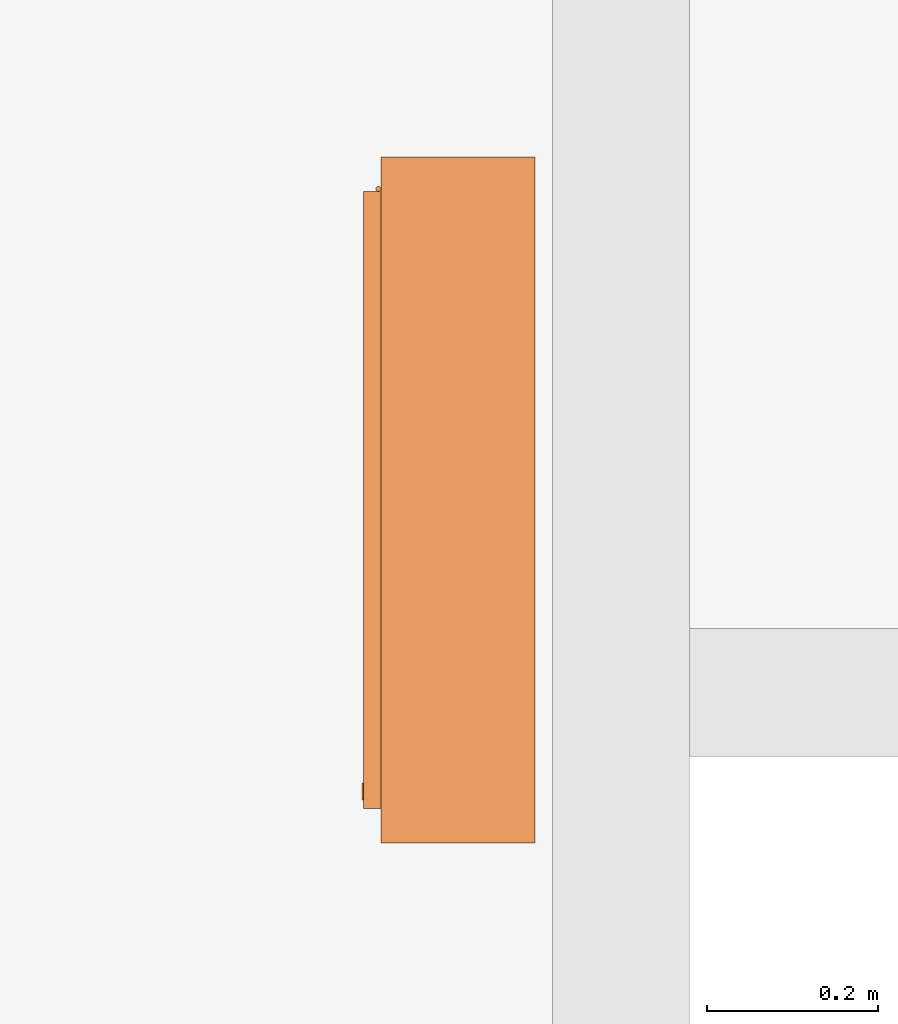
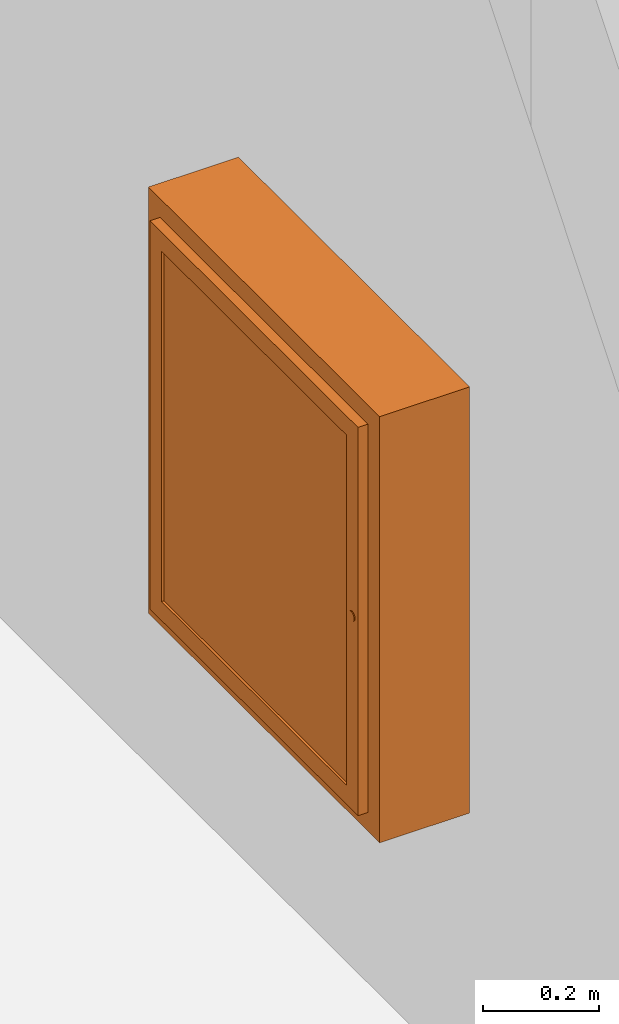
# One storey, part 37 of 67: 1 proxy.
"""IFC2X3 building model written with IfcOpenShell, lengths in millimetres."""

from ifc_helpers import new_model, entity, si_unit, converted_unit, derived_unit, money_unit, direction, frame, origin_with_axes, place, context, subcontext, project, spatial, faceted_brep, source, transform, mapped, type_object, element, save


model = new_model("IFC2X3")

# Units and contexts
model_context = context("Model", 3, precision=0.01, world=origin_with_axes(), true_north=direction((0.34421633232, 0.938890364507)))
body_context = subcontext(model_context, "Body", "Model", "MODEL_VIEW")
ifc_project = project(units=[si_unit("LENGTHUNIT", "METRE", prefix="MILLI"), si_unit("AREAUNIT", "SQUARE_METRE"), si_unit("VOLUMEUNIT", "CUBIC_METRE"), converted_unit("PLANEANGLEUNIT", "DEGREE", entity("IfcPlaneAngleMeasure", 0.0174532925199), si_unit("PLANEANGLEUNIT", "RADIAN"), dimensions=[0, 0, 0, 0, 0, 0, 0]), si_unit("SOLIDANGLEUNIT", "STERADIAN"), money_unit("USD"), converted_unit("TIMEUNIT", "Year", entity("IfcTimeMeasure", 31556926.0), si_unit("TIMEUNIT", "SECOND"), dimensions=[0, 0, 1, 0, 0, 0, 0]), si_unit("MASSUNIT", "GRAM", prefix="KILO"), si_unit("THERMODYNAMICTEMPERATUREUNIT", "DEGREE_CELSIUS"), si_unit("LUMINOUSINTENSITYUNIT", "LUMEN"), si_unit("ENERGYUNIT", "JOULE", prefix="MEGA"), derived_unit("THERMALCONDUCTANCEUNIT", [(si_unit("POWERUNIT", "WATT"), 1), (si_unit("LENGTHUNIT", "METRE"), -1), (si_unit("THERMODYNAMICTEMPERATUREUNIT", "KELVIN"), -1)]), derived_unit("SPECIFICHEATCAPACITYUNIT", [(si_unit("ENERGYUNIT", "JOULE"), 1), (si_unit("MASSUNIT", "GRAM", prefix="KILO"), -1), (si_unit("THERMODYNAMICTEMPERATUREUNIT", "KELVIN"), -1)]), derived_unit("MASSDENSITYUNIT", [(si_unit("MASSUNIT", "GRAM", prefix="KILO"), 1), (si_unit("VOLUMEUNIT", "CUBIC_METRE"), -1)])], contexts=[model_context])

# Site, building, storey
site_placement = place(None, origin_with_axes())
site = spatial("IfcSite", under=ifc_project, at=site_placement, Name="USTRONIE MORSKIE", CompositionType="ELEMENT")
building_placement = place(site_placement, origin_with_axes())
building = spatial("IfcBuilding", under=site, at=building_placement, Name="Budynek", CompositionType="ELEMENT")
storey_placement = place(building_placement, frame((0.0, 0.0, 4000.0), z_axis=(0.0, 0.0, 1.0), x_axis=(1.0, 0.0, 0.0)))
storey = spatial("IfcBuildingStorey", under=building, at=storey_placement, Name="PIĘTRO 1", CompositionType="ELEMENT", Elevation=4000.0)

# Proxy
building_element_proxy_type = type_object("IfcBuildingElementProxyType", Name="Skrzynka P-Poż 23", PredefinedType="NOTDEFINED")
shared_shape = source(origin_with_axes(), body_context, "Body", "Brep", [
    faceted_brep([(0.0, 40.0, 0.0), (800.0, 40.0, 0.0), (800.0, 20.0, 0.0), (0.0, 20.0, 0.0), (0.0, 40.0, 900.0), (800.0, 40.0, 900.0), (60.0, 40.0, 60.0), (740.0, 40.0, 60.0), (740.0, 40.0, 840.0), (60.0, 40.0, 840.0), (800.0, 20.0, 900.0), (0.0, 20.0, 900.0), (60.0, 20.0, 60.0), (60.0, 20.0, 840.0), (740.0, 20.0, 840.0), (740.0, 20.0, 60.0)], [[[0, 1, 2, 3]], [[0, 4, 5, 1], [6, 7, 8, 9]], [[1, 5, 10, 2]], [[3, 2, 10, 11], [12, 13, 14, 15]], [[4, 0, 3, 11]], [[5, 4, 11, 10]], [[7, 6, 12, 15]], [[8, 7, 15, 14]], [[9, 8, 14, 13]], [[6, 9, 13, 12]]]),
    faceted_brep([(40.0, 20.0, 40.0), (760.0, 20.0, 40.0), (760.0, 0.0, 40.0), (40.0, 0.0, 40.0), (40.0, 20.0, 860.0), (760.0, 20.0, 860.0), (80.0, 20.0, 80.0), (720.0, 20.0, 80.0), (720.0, 20.0, 820.0), (80.0, 20.0, 820.0), (760.0, 0.0, 860.0), (40.0, 0.0, 860.0), (80.0, 0.0, 80.0), (80.0, 0.0, 820.0), (720.0, 0.0, 820.0), (720.0, 0.0, 80.0)], [[[0, 1, 2, 3]], [[0, 4, 5, 1], [6, 7, 8, 9]], [[1, 5, 10, 2]], [[3, 2, 10, 11], [12, 13, 14, 15]], [[4, 0, 3, 11]], [[5, 4, 11, 10]], [[7, 6, 12, 15]], [[8, 7, 15, 14]], [[9, 8, 14, 13]], [[6, 9, 13, 12]]]),
    faceted_brep([(0.0, 180.0, 0.0), (800.0, 180.0, 0.0), (800.0, 40.0, 0.0), (0.0, 40.0, 0.0), (0.0, 180.0, 900.0), (800.0, 180.0, 900.0), (20.0, 180.0, 20.0), (780.0, 180.0, 20.0), (780.0, 180.0, 880.0), (20.0, 180.0, 880.0), (800.0, 40.0, 900.0), (0.0, 40.0, 900.0), (20.0, 40.0, 20.0), (20.0, 40.0, 880.0), (780.0, 40.0, 880.0), (780.0, 40.0, 20.0)], [[[0, 1, 2, 3]], [[0, 4, 5, 1], [6, 7, 8, 9]], [[1, 5, 10, 2]], [[3, 2, 10, 11], [12, 13, 14, 15]], [[4, 0, 3, 11]], [[5, 4, 11, 10]], [[7, 6, 12, 15]], [[8, 7, 15, 14]], [[9, 8, 14, 13]], [[6, 9, 13, 12]]]),
    faceted_brep([(0.0, 200.0, 0.0), (800.0, 200.0, 0.0), (800.0, 180.0, 0.0), (0.0, 180.0, 0.0), (0.0, 200.0, 900.0), (800.0, 200.0, 900.0), (800.0, 180.0, 900.0), (0.0, 180.0, 900.0)], [[[0, 1, 2, 3]], [[0, 4, 5, 1]], [[1, 5, 6, 2]], [[3, 2, 6, 7]], [[4, 0, 3, 7]], [[5, 4, 7, 6]]]),
    faceted_brep([(80.0, 15.0, 80.0), (720.0, 15.0, 80.0), (720.0, 5.0, 80.0), (80.0, 5.0, 80.0), (80.0, 15.0, 820.0), (720.0, 15.0, 820.0), (720.0, 5.0, 820.0), (80.0, 5.0, 820.0)], [[[0, 1, 2, 3]], [[0, 4, 5, 1]], [[1, 5, 6, 2]], [[3, 2, 6, 7]], [[4, 0, 3, 7]], [[5, 4, 7, 6]]]),
    faceted_brep([(749.659258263, 0.0, 447.411809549), (748.660254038, 0.0, 445.0), (747.071067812, 0.0, 442.928932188), (745.0, 0.0, 441.339745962), (742.588190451, 0.0, 440.340741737), (740.0, 0.0, 440.0), (737.411809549, 0.0, 440.340741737), (735.0, 0.0, 441.339745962), (732.928932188, 0.0, 442.928932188), (731.339745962, 0.0, 445.0), (730.340741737, 0.0, 447.411809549), (730.0, 0.0, 450.0), (730.340741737, 0.0, 452.588190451), (731.339745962, 0.0, 455.0), (732.928932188, 0.0, 457.071067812), (735.0, 0.0, 458.660254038), (737.411809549, 0.0, 459.659258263), (740.0, 0.0, 460.0), (742.588190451, 0.0, 459.659258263), (745.0, 0.0, 458.660254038), (747.071067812, 0.0, 457.071067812), (748.660254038, 0.0, 455.0), (749.659258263, 0.0, 452.588190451), (750.0, 0.0, 450.0), (749.659258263, -2.0, 447.411809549), (748.660254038, -2.0, 445.0), (747.071067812, -2.0, 442.928932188), (745.0, -2.0, 441.339745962), (742.588190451, -2.0, 440.340741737), (740.0, -2.0, 440.0), (737.411809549, -2.0, 440.340741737), (735.0, -2.0, 441.339745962), (732.928932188, -2.0, 442.928932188), (731.339745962, -2.0, 445.0), (730.340741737, -2.0, 447.411809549), (730.0, -2.0, 450.0), (730.340741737, -2.0, 452.588190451), (731.339745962, -2.0, 455.0), (732.928932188, -2.0, 457.071067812), (735.0, -2.0, 458.660254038), (737.411809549, -2.0, 459.659258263), (740.0, -2.0, 460.0), (742.588190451, -2.0, 459.659258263), (745.0, -2.0, 458.660254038), (747.071067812, -2.0, 457.071067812), (748.660254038, -2.0, 455.0), (749.659258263, -2.0, 452.588190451), (750.0, -2.0, 450.0)], [[[0, 1, 2, 3, 4, 5, 6, 7, 8, 9, 10, 11, 12, 13, 14, 15, 16, 17, 18, 19, 20, 21, 22, 23]], [[1, 0, 24, 25]], [[2, 1, 25, 26]], [[3, 2, 26, 27]], [[4, 3, 27, 28]], [[5, 4, 28, 29]], [[6, 5, 29, 30]], [[7, 6, 30, 31]], [[8, 7, 31, 32]], [[9, 8, 32, 33]], [[10, 9, 33, 34]], [[11, 10, 34, 35]], [[12, 11, 35, 36]], [[13, 12, 36, 37]], [[14, 13, 37, 38]], [[15, 14, 38, 39]], [[16, 15, 39, 40]], [[17, 16, 40, 41]], [[18, 17, 41, 42]], [[19, 18, 42, 43]], [[20, 19, 43, 44]], [[21, 20, 44, 45]], [[22, 21, 45, 46]], [[23, 22, 46, 47]], [[0, 23, 47, 24]], [[24, 47, 46, 45, 44, 43, 42, 41, 40, 39, 38, 37, 36, 35, 34, 33, 32, 31, 30, 29, 28, 27, 26, 25]]]),
    faceted_brep([(39.8977774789, 16.2235428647, 80.0), (39.5980762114, 15.5, 80.0), (39.1213203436, 14.8786796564, 80.0), (38.5, 14.4019237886, 80.0), (37.7764571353, 14.1022225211, 80.0), (37.0, 14.0, 80.0), (36.2235428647, 14.1022225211, 80.0), (35.5, 14.4019237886, 80.0), (34.8786796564, 14.8786796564, 80.0), (34.4019237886, 15.5, 80.0), (34.1022225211, 16.2235428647, 80.0), (34.0, 17.0, 80.0), (34.1022225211, 17.7764571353, 80.0), (34.4019237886, 18.5, 80.0), (34.8786796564, 19.1213203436, 80.0), (35.5, 19.5980762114, 80.0), (36.2235428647, 19.8977774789, 80.0), (37.0, 20.0, 80.0), (37.7764571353, 19.8977774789, 80.0), (38.5, 19.5980762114, 80.0), (39.1213203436, 19.1213203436, 80.0), (39.5980762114, 18.5, 80.0), (39.8977774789, 17.7764571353, 80.0), (40.0, 17.0, 80.0), (39.8977774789, 16.2235428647, 120.0), (39.5980762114, 15.5, 120.0), (39.1213203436, 14.8786796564, 120.0), (38.5, 14.4019237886, 120.0), (37.7764571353, 14.1022225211, 120.0), (37.0, 14.0, 120.0), (36.2235428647, 14.1022225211, 120.0), (35.5, 14.4019237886, 120.0), (34.8786796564, 14.8786796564, 120.0), (34.4019237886, 15.5, 120.0), (34.1022225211, 16.2235428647, 120.0), (34.0, 17.0, 120.0), (34.1022225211, 17.7764571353, 120.0), (34.4019237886, 18.5, 120.0), (34.8786796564, 19.1213203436, 120.0), (35.5, 19.5980762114, 120.0), (36.2235428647, 19.8977774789, 120.0), (37.0, 20.0, 120.0), (37.7764571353, 19.8977774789, 120.0), (38.5, 19.5980762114, 120.0), (39.1213203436, 19.1213203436, 120.0), (39.5980762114, 18.5, 120.0), (39.8977774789, 17.7764571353, 120.0), (40.0, 17.0, 120.0)], [[[0, 1, 2, 3, 4, 5, 6, 7, 8, 9, 10, 11, 12, 13, 14, 15, 16, 17, 18, 19, 20, 21, 22, 23]], [[1, 0, 24, 25]], [[2, 1, 25, 26]], [[3, 2, 26, 27]], [[4, 3, 27, 28]], [[5, 4, 28, 29]], [[6, 5, 29, 30]], [[7, 6, 30, 31]], [[8, 7, 31, 32]], [[9, 8, 32, 33]], [[10, 9, 33, 34]], [[11, 10, 34, 35]], [[12, 11, 35, 36]], [[13, 12, 36, 37]], [[14, 13, 37, 38]], [[15, 14, 38, 39]], [[16, 15, 39, 40]], [[17, 16, 40, 41]], [[18, 17, 41, 42]], [[19, 18, 42, 43]], [[20, 19, 43, 44]], [[21, 20, 44, 45]], [[22, 21, 45, 46]], [[23, 22, 46, 47]], [[0, 23, 47, 24]], [[24, 47, 46, 45, 44, 43, 42, 41, 40, 39, 38, 37, 36, 35, 34, 33, 32, 31, 30, 29, 28, 27, 26, 25]]]),
    faceted_brep([(39.8977774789, 16.2235428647, 780.0), (39.5980762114, 15.5, 780.0), (39.1213203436, 14.8786796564, 780.0), (38.5, 14.4019237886, 780.0), (37.7764571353, 14.1022225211, 780.0), (37.0, 14.0, 780.0), (36.2235428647, 14.1022225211, 780.0), (35.5, 14.4019237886, 780.0), (34.8786796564, 14.8786796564, 780.0), (34.4019237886, 15.5, 780.0), (34.1022225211, 16.2235428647, 780.0), (34.0, 17.0, 780.0), (34.1022225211, 17.7764571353, 780.0), (34.4019237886, 18.5, 780.0), (34.8786796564, 19.1213203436, 780.0), (35.5, 19.5980762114, 780.0), (36.2235428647, 19.8977774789, 780.0), (37.0, 20.0, 780.0), (37.7764571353, 19.8977774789, 780.0), (38.5, 19.5980762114, 780.0), (39.1213203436, 19.1213203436, 780.0), (39.5980762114, 18.5, 780.0), (39.8977774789, 17.7764571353, 780.0), (40.0, 17.0, 780.0), (39.8977774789, 16.2235428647, 820.0), (39.5980762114, 15.5, 820.0), (39.1213203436, 14.8786796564, 820.0), (38.5, 14.4019237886, 820.0), (37.7764571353, 14.1022225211, 820.0), (37.0, 14.0, 820.0), (36.2235428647, 14.1022225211, 820.0), (35.5, 14.4019237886, 820.0), (34.8786796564, 14.8786796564, 820.0), (34.4019237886, 15.5, 820.0), (34.1022225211, 16.2235428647, 820.0), (34.0, 17.0, 820.0), (34.1022225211, 17.7764571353, 820.0), (34.4019237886, 18.5, 820.0), (34.8786796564, 19.1213203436, 820.0), (35.5, 19.5980762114, 820.0), (36.2235428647, 19.8977774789, 820.0), (37.0, 20.0, 820.0), (37.7764571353, 19.8977774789, 820.0), (38.5, 19.5980762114, 820.0), (39.1213203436, 19.1213203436, 820.0), (39.5980762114, 18.5, 820.0), (39.8977774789, 17.7764571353, 820.0), (40.0, 17.0, 820.0)], [[[0, 1, 2, 3, 4, 5, 6, 7, 8, 9, 10, 11, 12, 13, 14, 15, 16, 17, 18, 19, 20, 21, 22, 23]], [[1, 0, 24, 25]], [[2, 1, 25, 26]], [[3, 2, 26, 27]], [[4, 3, 27, 28]], [[5, 4, 28, 29]], [[6, 5, 29, 30]], [[7, 6, 30, 31]], [[8, 7, 31, 32]], [[9, 8, 32, 33]], [[10, 9, 33, 34]], [[11, 10, 34, 35]], [[12, 11, 35, 36]], [[13, 12, 36, 37]], [[14, 13, 37, 38]], [[15, 14, 38, 39]], [[16, 15, 39, 40]], [[17, 16, 40, 41]], [[18, 17, 41, 42]], [[19, 18, 42, 43]], [[20, 19, 43, 44]], [[21, 20, 44, 45]], [[22, 21, 45, 46]], [[23, 22, 46, 47]], [[0, 23, 47, 24]], [[24, 47, 46, 45, 44, 43, 42, 41, 40, 39, 38, 37, 36, 35, 34, 33, 32, 31, 30, 29, 28, 27, 26, 25]]]),
])
proxy_placement = place(storey_placement, frame((417817.920919, 728201.202998, 600.0), z_axis=(0.0, 0.0, 1.0), x_axis=(0.0, -1.0, 0.0)))
element("IfcBuildingElementProxy", 1, at=proxy_placement, inside=storey, type_object=building_element_proxy_type, Name="OB3", context=body_context, shape_type="MappedRepresentation", body=[
    mapped(shared_shape, transform((0.0, 0.0, 0.0))),
])

save(model, "model.ifc")
